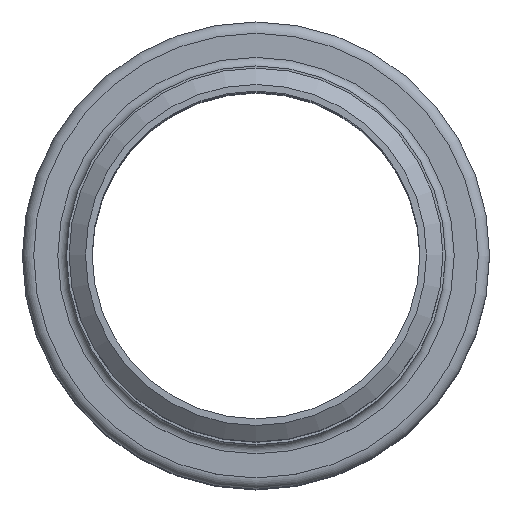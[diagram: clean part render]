
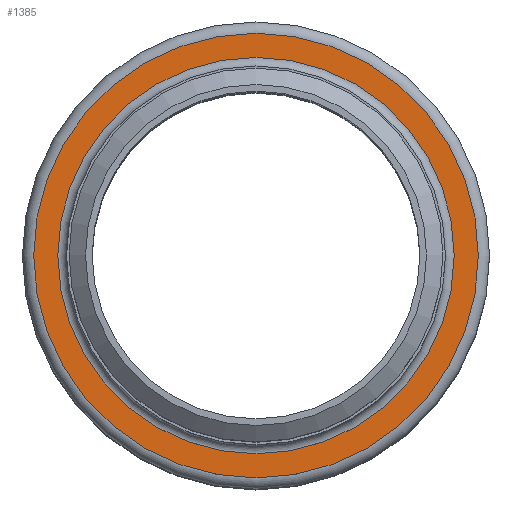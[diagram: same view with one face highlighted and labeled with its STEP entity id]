
A CAD part, top view. The second image highlights one B-rep face of the part: STEP entity #1385.
In plain terms, the highlighted planar face has unit normal (0, 0, 1).
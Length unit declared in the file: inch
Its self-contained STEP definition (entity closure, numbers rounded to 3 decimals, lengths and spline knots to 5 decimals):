
#155=FACE_BOUND('',#416,.T.);
#256=FACE_OUTER_BOUND('',#415,.T.);
#415=EDGE_LOOP('',(#1168));
#416=EDGE_LOOP('',(#1169));
#584=CIRCLE('',#1684,1.85575);
#585=CIRCLE('',#1686,2.08175);
#703=VERTEX_POINT('',#2631);
#704=VERTEX_POINT('',#2635);
#862=EDGE_CURVE('',#703,#703,#584,.T.);
#863=EDGE_CURVE('',#704,#704,#585,.T.);
#1168=ORIENTED_EDGE('',*,*,#863,.F.);
#1169=ORIENTED_EDGE('',*,*,#862,.T.);
#1284=PLANE('',#1685);
#1385=ADVANCED_FACE('',(#256,#155),#1284,.T.);
#1684=AXIS2_PLACEMENT_3D('',#2633,#2197,#2198);
#1685=AXIS2_PLACEMENT_3D('',#2634,#2199,#2200);
#1686=AXIS2_PLACEMENT_3D('',#2636,#2201,#2202);
#2197=DIRECTION('center_axis',(0.,0.,-1.));
#2198=DIRECTION('ref_axis',(1.,0.,0.));
#2199=DIRECTION('center_axis',(0.,0.,1.));
#2200=DIRECTION('ref_axis',(1.,0.,0.));
#2201=DIRECTION('center_axis',(0.,0.,-1.));
#2202=DIRECTION('ref_axis',(1.,0.,0.));
#2631=CARTESIAN_POINT('',(1.85575,0.,-0.08175));
#2633=CARTESIAN_POINT('Origin',(0.,0.,-0.08175));
#2634=CARTESIAN_POINT('Origin',(0.,2.08175,-0.08175));
#2635=CARTESIAN_POINT('',(2.08175,0.,-0.08175));
#2636=CARTESIAN_POINT('Origin',(0.,0.,-0.08175));
